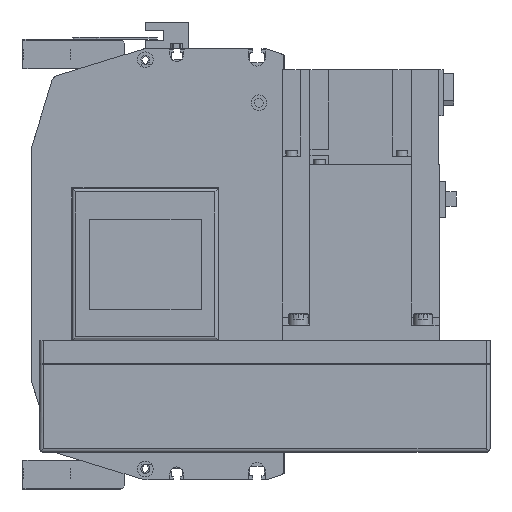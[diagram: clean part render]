
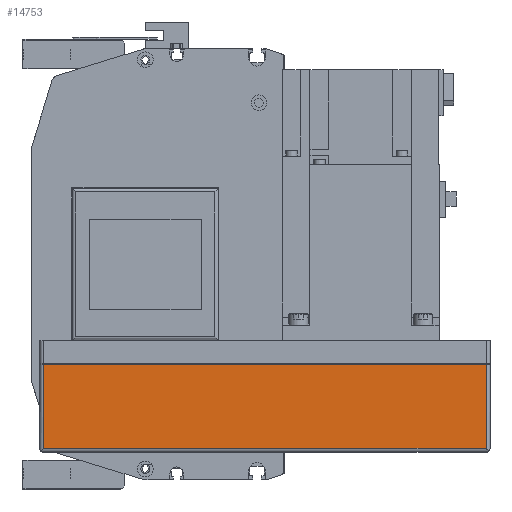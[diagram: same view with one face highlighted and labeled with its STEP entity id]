
A CAD part, left-side view. The second image highlights one B-rep face of the part: STEP entity #14753.
In plain terms, the highlighted planar face has unit normal (-1, 0, 0) as drawn and (0, 1, 0) by its records, which use the part's own axes.
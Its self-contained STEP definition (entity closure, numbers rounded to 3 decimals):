
#2508=ORIENTED_EDGE('',*,*,#6010,.F.);
#2509=ORIENTED_EDGE('',*,*,#5950,.T.);
#2510=ORIENTED_EDGE('',*,*,#6011,.F.);
#2511=ORIENTED_EDGE('',*,*,#5945,.F.);
#5945=EDGE_CURVE('',#7842,#7843,#9368,.T.);
#5950=EDGE_CURVE('',#7848,#7847,#9370,.T.);
#6010=EDGE_CURVE('',#7848,#7842,#9413,.T.);
#6011=EDGE_CURVE('',#7843,#7847,#9414,.T.);
#7842=VERTEX_POINT('',#22961);
#7843=VERTEX_POINT('',#22963);
#7847=VERTEX_POINT('',#22972);
#7848=VERTEX_POINT('',#22974);
#9368=LINE('',#22962,#10717);
#9370=LINE('',#22973,#10719);
#9413=LINE('',#23096,#10762);
#9414=LINE('',#23097,#10763);
#10717=VECTOR('',#18338,1000.);
#10719=VECTOR('',#18348,1000.);
#10762=VECTOR('',#18469,1000.);
#10763=VECTOR('',#18470,1000.);
#11920=EDGE_LOOP('',(#2508,#2509,#2510,#2511));
#13101=FACE_BOUND('',#11920,.T.);
#14120=PLANE('',#15841);
#14753=ADVANCED_FACE('',(#13101),#14120,.T.);
#15841=AXIS2_PLACEMENT_3D('',#23095,#18467,#18468);
#18338=DIRECTION('',(0.,0.,1.));
#18348=DIRECTION('',(0.,0.,1.));
#18467=DIRECTION('',(0.,1.,0.));
#18468=DIRECTION('',(0.,0.,1.));
#18469=DIRECTION('',(1.,0.,0.));
#18470=DIRECTION('',(-1.,0.,0.));
#22961=CARTESIAN_POINT('',(-2.,54.,-55.));
#22962=CARTESIAN_POINT('',(-2.,54.,-57.));
#22963=CARTESIAN_POINT('',(-2.,54.,-12.));
#22972=CARTESIAN_POINT('',(-228.,54.,-12.));
#22973=CARTESIAN_POINT('',(-228.,54.,-57.));
#22974=CARTESIAN_POINT('',(-228.,54.,-55.));
#23095=CARTESIAN_POINT('',(-2.,54.,-57.));
#23096=CARTESIAN_POINT('',(-230.,54.,-55.));
#23097=CARTESIAN_POINT('',(-2.,54.,-12.));
